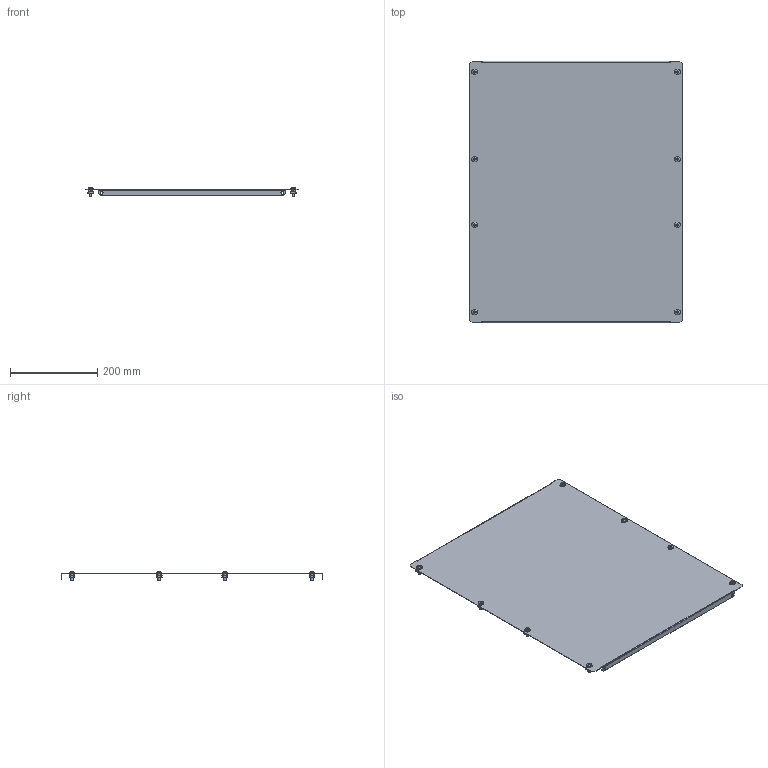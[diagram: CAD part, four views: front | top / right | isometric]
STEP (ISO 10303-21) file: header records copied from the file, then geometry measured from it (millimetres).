
FILE_DESCRIPTION (( 'STEP AP203' ), '1' );
FILE_NAME ('MA1.400.060000.01.00 Ïëàñòðîí Â600 Ø600 EKF AleSta-FP60M600.STEP', '2024-12-02T12:49:08', ( '' ), ( '' ), 'SwSTEP 2.0', 'SolidWorks 2021', '' );
FILE_SCHEMA (( 'CONFIG_CONTROL_DESIGN' ));
Length unit declared in the file: millimetre
Products named in the file (6): MA1.400.060000.01.00 Ïëàñòðîí Â600 Ø600 EKF AleSta-FP60M600; pan head cross recess screw_din_DIN EN ISO 7045 - M6 x 16 - Z - 16N; Îáîëî÷êà ãàéêè çàêëàäíîé; Ãàéêà çàêëàäíàÿ; Ãàéêà çàêëàäêàÿ Ì6; MA1.400.060000.01.01 Ïëàñòðîí Â50 Ø600 EKF AleSta_Copy of Copy of ˜=600
Assembly tree (19 placements, depth 3):
  MA1.400.060000.01.00 Ïëàñòðîí Â600 Ø600 EKF AleSta-FP60M600
    MA1.400.060000.01.01 Ïëàñòðîí Â50 Ø600 EKF AleSta_Copy of Copy of ˜=600
    Ãàéêà çàêëàäíàÿ  x8
      Îáîëî÷êà ãàéêè çàêëàäíîé
      Ãàéêà çàêëàäêàÿ Ì6
    pan head cross recess screw_din_DIN EN ISO 7045 - M6 x 16 - Z - 16N  x8
Bounding box: 486 x 599 x 20.48 mm (x, y, z)
Volume: 311436.8 mm3; surface area: 619050.1 mm2
Topology: 25 solids, 25 shells, 1330 faces, 2938 edges, 1666 vertices
Faces by surface type: plane 842, cylinder 280, bspline 128, cone 56, torus 16, sphere 8
Full cylindrical faces by diameter (mm): 6 x16, 6.5 x4, 7 x8, 12 x8
Entity records: 8220 total; most frequent: CARTESIAN_POINT 1773, DIRECTION 1122, ORIENTED_EDGE 1096, EDGE_CURVE 548, LINE 384, VECTOR 384, AXIS2_PLACEMENT_3D 369, VERTEX_POINT 332
